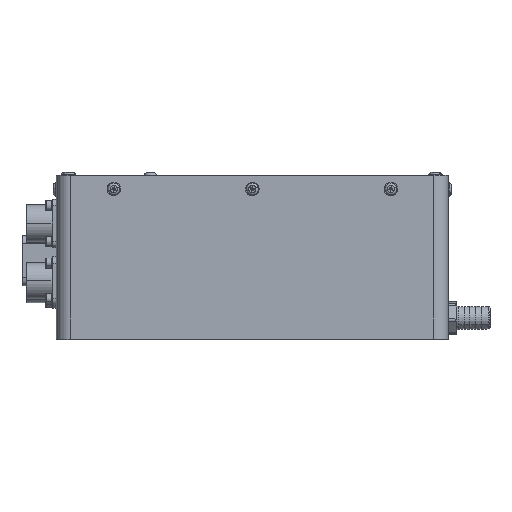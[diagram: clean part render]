
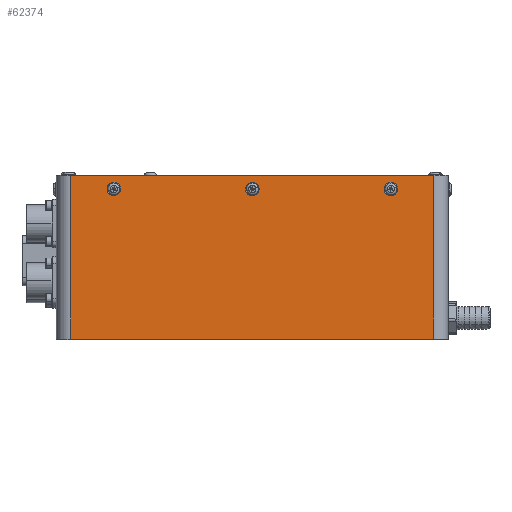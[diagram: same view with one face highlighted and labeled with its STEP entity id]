
A CAD part, top view. The second image highlights one B-rep face of the part: STEP entity #62374.
In plain terms, the highlighted planar face has unit normal (0, 0, 1).
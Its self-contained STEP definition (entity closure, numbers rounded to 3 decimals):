
#954 = DIRECTION ( 'NONE',  ( 0., 1., 0. ) ) ;
#1183 = EDGE_CURVE ( 'NONE', #49127, #59059, #3250, .T. ) ;
#2071 = VECTOR ( 'NONE', #954, 1000. ) ;
#2682 = VERTEX_POINT ( 'NONE', #12075 ) ;
#3250 = CIRCLE ( 'NONE', #52234, 2.65 ) ;
#3896 = VERTEX_POINT ( 'NONE', #9621 ) ;
#4268 = DIRECTION ( 'NONE',  ( 1., 0., 0. ) ) ;
#5255 = VERTEX_POINT ( 'NONE', #47289 ) ;
#5458 = VERTEX_POINT ( 'NONE', #41452 ) ;
#5655 = DIRECTION ( 'NONE',  ( 0., -1., 0. ) ) ;
#6129 = DIRECTION ( 'NONE',  ( 0., 0., -1. ) ) ;
#7893 = CARTESIAN_POINT ( 'NONE',  ( 100., 102.5, 149. ) ) ;
#8940 = ORIENTED_EDGE ( 'NONE', *, *, #54519, .F. ) ;
#9621 = CARTESIAN_POINT ( 'NONE',  ( 102.65, 105.5, 149. ) ) ;
#10729 = AXIS2_PLACEMENT_3D ( 'NONE', #61246, #74376, #75696 ) ;
#10950 = DIRECTION ( 'NONE',  ( 0., 1., 0. ) ) ;
#11545 = LINE ( 'NONE', #58641, #53629 ) ;
#12075 = CARTESIAN_POINT ( 'NONE',  ( -95.65, 105.5, 149. ) ) ;
#12616 = CARTESIAN_POINT ( 'NONE',  ( -123., 114., 149. ) ) ;
#13573 = EDGE_CURVE ( 'NONE', #77866, #5255, #72964, .T. ) ;
#13609 = CARTESIAN_POINT ( 'NONE',  ( -95.65, 102.5, 149. ) ) ;
#13933 = DIRECTION ( 'NONE',  ( -1., 0., 0. ) ) ;
#14232 = ORIENTED_EDGE ( 'NONE', *, *, #32226, .T. ) ;
#16785 = LINE ( 'NONE', #83611, #49992 ) ;
#17996 = EDGE_CURVE ( 'NONE', #21737, #62901, #59711, .T. ) ;
#18177 = EDGE_CURVE ( 'NONE', #38772, #66705, #23232, .T. ) ;
#18797 = DIRECTION ( 'NONE',  ( 0., -1., 0. ) ) ;
#19665 = DIRECTION ( 'NONE',  ( 0., 0., -1. ) ) ;
#19842 = DIRECTION ( 'NONE',  ( -1., 0., 0. ) ) ;
#20494 = DIRECTION ( 'NONE',  ( 0., 0., -1. ) ) ;
#20531 = ORIENTED_EDGE ( 'NONE', *, *, #47678, .F. ) ;
#20981 = CARTESIAN_POINT ( 'NONE',  ( 3.5, 102.5, 149. ) ) ;
#21138 = FACE_BOUND ( 'NONE', #72657, .T. ) ;
#21737 = VERTEX_POINT ( 'NONE', #81667 ) ;
#23080 = LINE ( 'NONE', #83369, #62628 ) ;
#23232 = CIRCLE ( 'NONE', #52635, 2.65 ) ;
#24911 = DIRECTION ( 'NONE',  ( -1., 0., 0. ) ) ;
#25093 = CIRCLE ( 'NONE', #56031, 2.65 ) ;
#26201 = DIRECTION ( 'NONE',  ( 0., -1., 0. ) ) ;
#27044 = EDGE_CURVE ( 'NONE', #62901, #65807, #62613, .T. ) ;
#27093 = CARTESIAN_POINT ( 'NONE',  ( 6.15, 102.5, 149. ) ) ;
#27196 = LINE ( 'NONE', #13609, #2071 ) ;
#27320 = EDGE_LOOP ( 'NONE', ( #71560, #8940, #45811, #20531 ) ) ;
#31463 = CARTESIAN_POINT ( 'NONE',  ( 100., 105.5, 149. ) ) ;
#31534 = VECTOR ( 'NONE', #5655, 1000. ) ;
#31982 = VERTEX_POINT ( 'NONE', #71310 ) ;
#32026 = DIRECTION ( 'NONE',  ( 0., 1., 0. ) ) ;
#32226 = EDGE_CURVE ( 'NONE', #3896, #61873, #71621, .T. ) ;
#32389 = DIRECTION ( 'NONE',  ( 0., 0., -1. ) ) ;
#32562 = CARTESIAN_POINT ( 'NONE',  ( -123., 0., 149. ) ) ;
#33702 = EDGE_CURVE ( 'NONE', #61873, #31982, #43440, .T. ) ;
#33848 = FACE_OUTER_BOUND ( 'NONE', #27320, .T. ) ;
#34538 = VECTOR ( 'NONE', #32026, 1000. ) ;
#38130 = CARTESIAN_POINT ( 'NONE',  ( 102.65, 102.5, 149. ) ) ;
#38603 = EDGE_CURVE ( 'NONE', #81149, #61029, #16785, .T. ) ;
#38691 = ORIENTED_EDGE ( 'NONE', *, *, #27044, .T. ) ;
#38772 = VERTEX_POINT ( 'NONE', #70286 ) ;
#39382 = CARTESIAN_POINT ( 'NONE',  ( -90.35, 102.5, 149. ) ) ;
#40763 = EDGE_CURVE ( 'NONE', #5458, #3896, #25093, .T. ) ;
#40962 = CARTESIAN_POINT ( 'NONE',  ( 140., 0., 149. ) ) ;
#41184 = CARTESIAN_POINT ( 'NONE',  ( -95.65, 102.5, 149. ) ) ;
#41242 = CARTESIAN_POINT ( 'NONE',  ( 102.65, 102.5, 149. ) ) ;
#41452 = CARTESIAN_POINT ( 'NONE',  ( 97.35, 105.5, 149. ) ) ;
#43440 = CIRCLE ( 'NONE', #50530, 2.65 ) ;
#44618 = EDGE_LOOP ( 'NONE', ( #38691, #68774, #68589, #51622 ) ) ;
#45811 = ORIENTED_EDGE ( 'NONE', *, *, #13573, .T. ) ;
#47059 = PLANE ( 'NONE',  #10729 ) ;
#47289 = CARTESIAN_POINT ( 'NONE',  ( 130., 114., 149. ) ) ;
#47463 = ORIENTED_EDGE ( 'NONE', *, *, #59533, .T. ) ;
#47510 = FACE_BOUND ( 'NONE', #44618, .T. ) ;
#47678 = EDGE_CURVE ( 'NONE', #81149, #5255, #23080, .T. ) ;
#47733 = ORIENTED_EDGE ( 'NONE', *, *, #18177, .T. ) ;
#47945 = FACE_BOUND ( 'NONE', #70551, .T. ) ;
#49127 = VERTEX_POINT ( 'NONE', #27093 ) ;
#49332 = CIRCLE ( 'NONE', #81699, 2.65 ) ;
#49992 = VECTOR ( 'NONE', #55894, 1000. ) ;
#50530 = AXIS2_PLACEMENT_3D ( 'NONE', #7893, #19665, #53903 ) ;
#51362 = CARTESIAN_POINT ( 'NONE',  ( 130., 114., 149. ) ) ;
#51622 = ORIENTED_EDGE ( 'NONE', *, *, #17996, .T. ) ;
#52234 = AXIS2_PLACEMENT_3D ( 'NONE', #20981, #32389, #66350 ) ;
#52365 = CARTESIAN_POINT ( 'NONE',  ( 3.5, 105.5, 149. ) ) ;
#52635 = AXIS2_PLACEMENT_3D ( 'NONE', #52365, #73094, #19842 ) ;
#53629 = VECTOR ( 'NONE', #85428, 1000. ) ;
#53713 = EDGE_CURVE ( 'NONE', #2682, #21737, #49332, .T. ) ;
#53754 = VECTOR ( 'NONE', #68367, 1000. ) ;
#53903 = DIRECTION ( 'NONE',  ( -1., 0., 0. ) ) ;
#54519 = EDGE_CURVE ( 'NONE', #77866, #61029, #80600, .T. ) ;
#54629 = ORIENTED_EDGE ( 'NONE', *, *, #1183, .T. ) ;
#54790 = CARTESIAN_POINT ( 'NONE',  ( -90.35, 102.5, 149. ) ) ;
#55894 = DIRECTION ( 'NONE',  ( 0., -1., 0. ) ) ;
#56031 = AXIS2_PLACEMENT_3D ( 'NONE', #31463, #85178, #24911 ) ;
#56837 = EDGE_CURVE ( 'NONE', #66705, #49127, #72848, .T. ) ;
#58641 = CARTESIAN_POINT ( 'NONE',  ( 0.85, 102.5, 149. ) ) ;
#59059 = VERTEX_POINT ( 'NONE', #63125 ) ;
#59533 = EDGE_CURVE ( 'NONE', #59059, #38772, #11545, .T. ) ;
#59711 = LINE ( 'NONE', #39382, #31534 ) ;
#61029 = VERTEX_POINT ( 'NONE', #32562 ) ;
#61246 = CARTESIAN_POINT ( 'NONE',  ( -133., 114., 149. ) ) ;
#61873 = VERTEX_POINT ( 'NONE', #41242 ) ;
#62374 = ADVANCED_FACE ( 'NONE', ( #33848, #47510, #21138, #47945 ), #47059, .F. ) ;
#62613 = CIRCLE ( 'NONE', #70947, 2.65 ) ;
#62628 = VECTOR ( 'NONE', #4268, 1000. ) ;
#62901 = VERTEX_POINT ( 'NONE', #54790 ) ;
#63125 = CARTESIAN_POINT ( 'NONE',  ( 0.85, 102.5, 149. ) ) ;
#63464 = CARTESIAN_POINT ( 'NONE',  ( 130., 0., 149. ) ) ;
#63572 = ORIENTED_EDGE ( 'NONE', *, *, #56837, .T. ) ;
#63790 = LINE ( 'NONE', #76930, #68695 ) ;
#65807 = VERTEX_POINT ( 'NONE', #41184 ) ;
#66350 = DIRECTION ( 'NONE',  ( -1., 0., 0. ) ) ;
#66705 = VERTEX_POINT ( 'NONE', #75985 ) ;
#66815 = DIRECTION ( 'NONE',  ( -1., 0., 0. ) ) ;
#68367 = DIRECTION ( 'NONE',  ( -1., 0., 0. ) ) ;
#68589 = ORIENTED_EDGE ( 'NONE', *, *, #53713, .T. ) ;
#68695 = VECTOR ( 'NONE', #10950, 1000. ) ;
#68774 = ORIENTED_EDGE ( 'NONE', *, *, #74883, .T. ) ;
#70286 = CARTESIAN_POINT ( 'NONE',  ( 0.85, 105.5, 149. ) ) ;
#70551 = EDGE_LOOP ( 'NONE', ( #54629, #47463, #47733, #63572 ) ) ;
#70947 = AXIS2_PLACEMENT_3D ( 'NONE', #74174, #20494, #13933 ) ;
#71187 = EDGE_CURVE ( 'NONE', #31982, #5458, #63790, .T. ) ;
#71310 = CARTESIAN_POINT ( 'NONE',  ( 97.35, 102.5, 149. ) ) ;
#71560 = ORIENTED_EDGE ( 'NONE', *, *, #38603, .T. ) ;
#71621 = LINE ( 'NONE', #38130, #78501 ) ;
#72657 = EDGE_LOOP ( 'NONE', ( #79494, #82360, #78201, #14232 ) ) ;
#72848 = LINE ( 'NONE', #79853, #85116 ) ;
#72964 = LINE ( 'NONE', #51362, #34538 ) ;
#73094 = DIRECTION ( 'NONE',  ( 0., 0., -1. ) ) ;
#74174 = CARTESIAN_POINT ( 'NONE',  ( -93., 102.5, 149. ) ) ;
#74376 = DIRECTION ( 'NONE',  ( 0., 0., -1. ) ) ;
#74883 = EDGE_CURVE ( 'NONE', #65807, #2682, #27196, .T. ) ;
#75696 = DIRECTION ( 'NONE',  ( -1., 0., 0. ) ) ;
#75985 = CARTESIAN_POINT ( 'NONE',  ( 6.15, 105.5, 149. ) ) ;
#76930 = CARTESIAN_POINT ( 'NONE',  ( 97.35, 102.5, 149. ) ) ;
#77866 = VERTEX_POINT ( 'NONE', #63464 ) ;
#78201 = ORIENTED_EDGE ( 'NONE', *, *, #40763, .T. ) ;
#78501 = VECTOR ( 'NONE', #18797, 1000. ) ;
#79494 = ORIENTED_EDGE ( 'NONE', *, *, #33702, .T. ) ;
#79853 = CARTESIAN_POINT ( 'NONE',  ( 6.15, 102.5, 149. ) ) ;
#80600 = LINE ( 'NONE', #40962, #53754 ) ;
#81149 = VERTEX_POINT ( 'NONE', #12616 ) ;
#81667 = CARTESIAN_POINT ( 'NONE',  ( -90.35, 105.5, 149. ) ) ;
#81699 = AXIS2_PLACEMENT_3D ( 'NONE', #86559, #6129, #66815 ) ;
#82360 = ORIENTED_EDGE ( 'NONE', *, *, #71187, .T. ) ;
#83369 = CARTESIAN_POINT ( 'NONE',  ( -133., 114., 149. ) ) ;
#83611 = CARTESIAN_POINT ( 'NONE',  ( -123., 114., 149. ) ) ;
#85116 = VECTOR ( 'NONE', #26201, 1000. ) ;
#85178 = DIRECTION ( 'NONE',  ( 0., 0., -1. ) ) ;
#85428 = DIRECTION ( 'NONE',  ( 0., 1., 0. ) ) ;
#86559 = CARTESIAN_POINT ( 'NONE',  ( -93., 105.5, 149. ) ) ;
